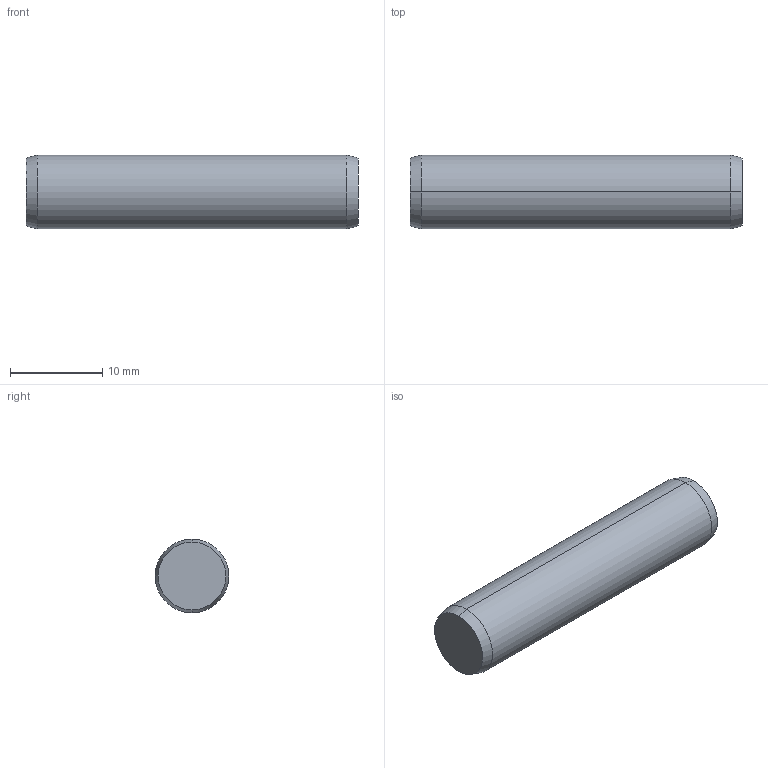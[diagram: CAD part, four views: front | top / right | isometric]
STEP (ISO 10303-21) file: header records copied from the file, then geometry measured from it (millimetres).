
FILE_DESCRIPTION (( 'STEP AP203' ), '1' );
FILE_NAME ('P1206.080-036.step', '2017-06-14T08:27:37', ( 'User' ), ( '' ), 'SwSTEP 2.0', 'SolidWorks 2009', '' );
FILE_SCHEMA (( 'CONFIG_CONTROL_DESIGN' ));
Length unit declared in the file: millimetre
Products named in the file (1): P1206.080-036
Bounding box: 36 x 8 x 8 mm (x, y, z)
Volume: 1800.1 mm3; surface area: 989.4 mm2
Topology: 1 solids, 1 shells, 8 faces, 14 edges, 8 vertices
Faces by surface type: cone 4, cylinder 2, plane 2
Entity records: 271 total; most frequent: DIRECTION 40, CARTESIAN_POINT 31, ORIENTED_EDGE 28, AXIS2_PLACEMENT_3D 17, EDGE_CURVE 14, PERSON_AND_ORGANIZATION 8, ADVANCED_FACE 8, EDGE_LOOP 8
